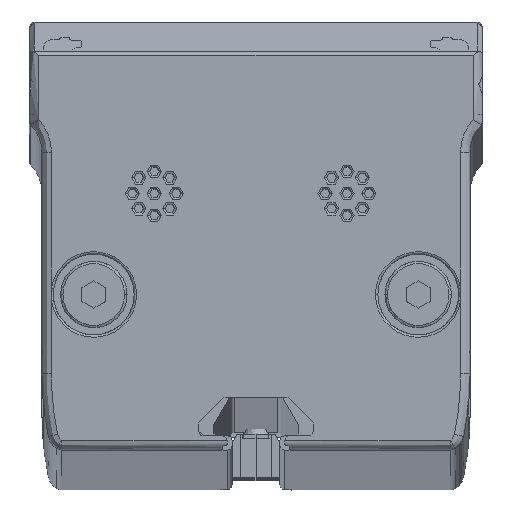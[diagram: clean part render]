
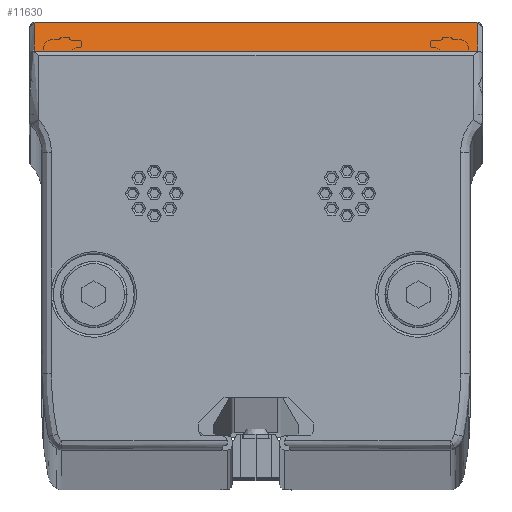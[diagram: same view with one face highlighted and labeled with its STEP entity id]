
A CAD part, top view. The second image highlights one B-rep face of the part: STEP entity #11630.
In plain terms, the highlighted planar face has unit normal (0, 0.858, 0.514).
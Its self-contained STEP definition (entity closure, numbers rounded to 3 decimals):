
#245 = ORIENTED_EDGE ( 'NONE', *, *, #5384, .T. ) ;
#494 = CARTESIAN_POINT ( 'NONE',  ( 23.315, 22.329, 2380.08 ) ) ;
#949 = CARTESIAN_POINT ( 'NONE',  ( 23.315, 22.387, 2379.983 ) ) ;
#1702 = PLANE ( 'NONE',  #4806 ) ;
#1926 = VERTEX_POINT ( 'NONE', #9455 ) ;
#2017 = CARTESIAN_POINT ( 'NONE',  ( 23.215, 22.429, 2379.914 ) ) ;
#2834 = CARTESIAN_POINT ( 'NONE',  ( -23.315, 22.387, 2379.983 ) ) ;
#3432 = CARTESIAN_POINT ( 'NONE',  ( 23.215, 22.429, 2379.914 ) ) ;
#3651 = CARTESIAN_POINT ( 'NONE',  ( 23.82, 19.433, 2384.907 ) ) ;
#4026 = CARTESIAN_POINT ( 'NONE',  ( -23.215, 22.429, 2379.914 ) ) ;
#4103 = CARTESIAN_POINT ( 'NONE',  ( 23.82, 19.287, 2385.15 ) ) ;
#4461 = EDGE_CURVE ( 'NONE', #28632, #29072, #24119, .T. ) ;
#4806 = AXIS2_PLACEMENT_3D ( 'NONE', #4103, #8614, #8302 ) ;
#5088 = CARTESIAN_POINT ( 'NONE',  ( -23.215, 22.429, 2379.914 ) ) ;
#5384 = EDGE_CURVE ( 'NONE', #19443, #6411, #15861, .T. ) ;
#6324 = EDGE_CURVE ( 'NONE', #6411, #8547, #8778, .T. ) ;
#6411 = VERTEX_POINT ( 'NONE', #23871 ) ;
#7350 = CARTESIAN_POINT ( 'NONE',  ( 23.215, 22.429, 2379.914 ) ) ;
#7353 = ORIENTED_EDGE ( 'NONE', *, *, #4461, .T. ) ;
#8295 = CARTESIAN_POINT ( 'NONE',  ( 23.315, 19.287, 2385.15 ) ) ;
#8302 = DIRECTION ( 'NONE',  ( 0., 0.514, -0.857 ) ) ;
#8545 =( BOUNDED_CURVE ( )  B_SPLINE_CURVE ( 3, ( #494, #949, #25979, #28389 ),
 .UNSPECIFIED., .F., .F. ) 
 B_SPLINE_CURVE_WITH_KNOTS ( ( 4, 4 ),
 ( 4.712, 6.283 ),
 .UNSPECIFIED. ) 
 CURVE ( )  GEOMETRIC_REPRESENTATION_ITEM ( )  RATIONAL_B_SPLINE_CURVE ( ( 1., 0.805, 0.805, 1. ) ) 
 REPRESENTATION_ITEM ( '' )  );
#8547 = VERTEX_POINT ( 'NONE', #4026 ) ;
#8614 = DIRECTION ( 'NONE',  ( 0., -0.857, -0.514 ) ) ;
#8778 = LINE ( 'NONE', #24498, #20167 ) ;
#9092 = CARTESIAN_POINT ( 'NONE',  ( -23.315, 19.433, 2384.907 ) ) ;
#9455 = CARTESIAN_POINT ( 'NONE',  ( 23.315, 19.433, 2384.907 ) ) ;
#11630 = ADVANCED_FACE ( 'NONE', ( #19651 ), #1702, .F. ) ;
#12355 = ORIENTED_EDGE ( 'NONE', *, *, #6324, .T. ) ;
#13822 = VERTEX_POINT ( 'NONE', #27121 ) ;
#14451 = CARTESIAN_POINT ( 'NONE',  ( 23.215, 22.429, 2379.914 ) ) ;
#14709 =( BOUNDED_CURVE ( )  B_SPLINE_CURVE ( 3, ( #5088, #23510, #2834, #22279 ),
 .UNSPECIFIED., .F., .F. ) 
 B_SPLINE_CURVE_WITH_KNOTS ( ( 4, 4 ),
 ( 0., 1.571 ),
 .UNSPECIFIED. ) 
 CURVE ( )  GEOMETRIC_REPRESENTATION_ITEM ( )  RATIONAL_B_SPLINE_CURVE ( ( 1., 0.805, 0.805, 1. ) ) 
 REPRESENTATION_ITEM ( '' )  );
#14844 = ORIENTED_EDGE ( 'NONE', *, *, #15868, .T. ) ;
#15067 = ORIENTED_EDGE ( 'NONE', *, *, #19038, .T. ) ;
#15167 = EDGE_CURVE ( 'NONE', #8547, #28632, #14709, .T. ) ;
#15861 =( BOUNDED_CURVE ( )  B_SPLINE_CURVE ( 3, ( #14451, #23530, #2017, #7350 ),
 .UNSPECIFIED., .F., .F. ) 
 B_SPLINE_CURVE_WITH_KNOTS ( ( 4, 4 ),
 ( 6.283, 6.283 ),
 .UNSPECIFIED. ) 
 CURVE ( )  GEOMETRIC_REPRESENTATION_ITEM ( )  RATIONAL_B_SPLINE_CURVE ( ( 1., 1., 1., 1. ) ) 
 REPRESENTATION_ITEM ( '' )  );
#15868 = EDGE_CURVE ( 'NONE', #13822, #19443, #8545, .T. ) ;
#17013 = CARTESIAN_POINT ( 'NONE',  ( -23.315, 19.287, 2385.15 ) ) ;
#17075 = LINE ( 'NONE', #8295, #20876 ) ;
#17166 = DIRECTION ( 'NONE',  ( 0., -0.514, 0.857 ) ) ;
#19038 = EDGE_CURVE ( 'NONE', #1926, #13822, #17075, .T. ) ;
#19443 = VERTEX_POINT ( 'NONE', #3432 ) ;
#19642 = LINE ( 'NONE', #3651, #27107 ) ;
#19651 = FACE_OUTER_BOUND ( 'NONE', #20909, .T. ) ;
#19948 = DIRECTION ( 'NONE',  ( -1., 0., 0. ) ) ;
#20167 = VECTOR ( 'NONE', #19948, 1000. ) ;
#20456 = ORIENTED_EDGE ( 'NONE', *, *, #15167, .T. ) ;
#20876 = VECTOR ( 'NONE', #22210, 1000. ) ;
#20909 = EDGE_LOOP ( 'NONE', ( #21505, #15067, #14844, #245, #12355, #20456, #7353 ) ) ;
#21505 = ORIENTED_EDGE ( 'NONE', *, *, #23544, .T. ) ;
#22057 = DIRECTION ( 'NONE',  ( 1., 0., 0. ) ) ;
#22210 = DIRECTION ( 'NONE',  ( 0., 0.514, -0.857 ) ) ;
#22279 = CARTESIAN_POINT ( 'NONE',  ( -23.315, 22.329, 2380.08 ) ) ;
#23510 = CARTESIAN_POINT ( 'NONE',  ( -23.274, 22.429, 2379.914 ) ) ;
#23530 = CARTESIAN_POINT ( 'NONE',  ( 23.215, 22.429, 2379.914 ) ) ;
#23544 = EDGE_CURVE ( 'NONE', #29072, #1926, #19642, .T. ) ;
#23871 = CARTESIAN_POINT ( 'NONE',  ( 23.215, 22.429, 2379.914 ) ) ;
#24119 = LINE ( 'NONE', #17013, #25996 ) ;
#24498 = CARTESIAN_POINT ( 'NONE',  ( -23.215, 22.429, 2379.914 ) ) ;
#24549 = CARTESIAN_POINT ( 'NONE',  ( -23.315, 22.329, 2380.08 ) ) ;
#25979 = CARTESIAN_POINT ( 'NONE',  ( 23.274, 22.429, 2379.914 ) ) ;
#25996 = VECTOR ( 'NONE', #17166, 1000. ) ;
#27107 = VECTOR ( 'NONE', #22057, 1000. ) ;
#27121 = CARTESIAN_POINT ( 'NONE',  ( 23.315, 22.329, 2380.08 ) ) ;
#28389 = CARTESIAN_POINT ( 'NONE',  ( 23.215, 22.429, 2379.914 ) ) ;
#28632 = VERTEX_POINT ( 'NONE', #24549 ) ;
#29072 = VERTEX_POINT ( 'NONE', #9092 ) ;
